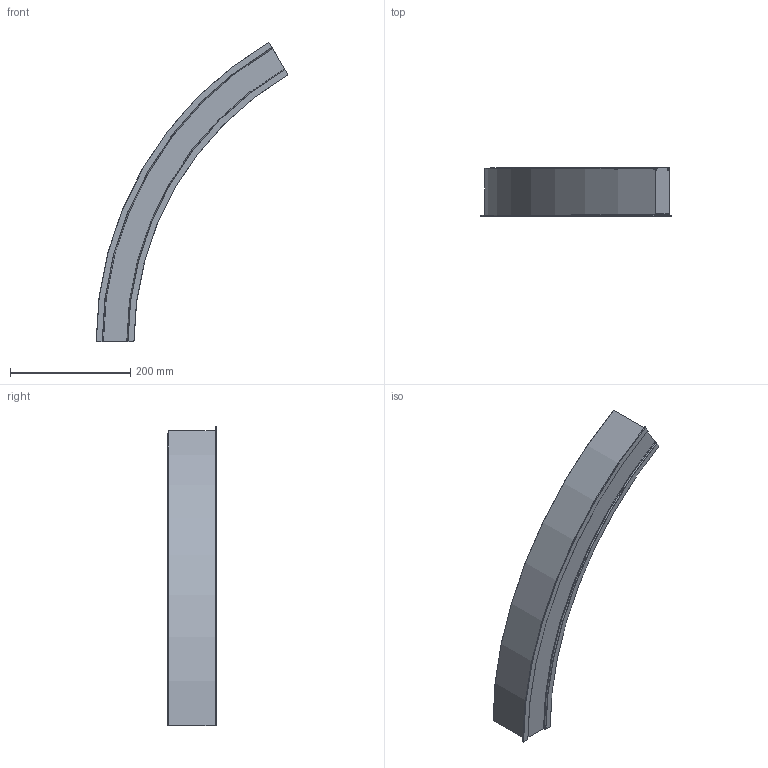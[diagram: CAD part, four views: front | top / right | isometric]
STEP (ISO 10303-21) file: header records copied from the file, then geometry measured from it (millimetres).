
FILE_DESCRIPTION (( 'STEP AP203' ), '1' );
FILE_NAME ('mLight_Swerve 47 Recessed_R543.75 mm 60 deg.STEP', '2020-04-01T10:11:02', ( '' ), ( '' ), 'SwSTEP 2.0', 'SolidWorks 2017', '' );
FILE_SCHEMA (( 'CONFIG_CONTROL_DESIGN' ));
Length unit declared in the file: millimetre
Products named in the file (1): mLight_Swerve 47 Recessed_R543.75 mm 60 deg
Bounding box: 319.13 x 80.63 x 498.18 mm (x, y, z)
Volume: 2067545.4 mm3; surface area: 182648.1 mm2
Topology: 1 solids, 1 shells, 54 faces, 156 edges, 104 vertices
Faces by surface type: torus 28, plane 12, cylinder 8, cone 6
Entity records: 1925 total; most frequent: DIRECTION 374, CARTESIAN_POINT 315, ORIENTED_EDGE 312, AXIS2_PLACEMENT_3D 163, EDGE_CURVE 156, CIRCLE 108, VERTEX_POINT 104, ADVANCED_FACE 54
